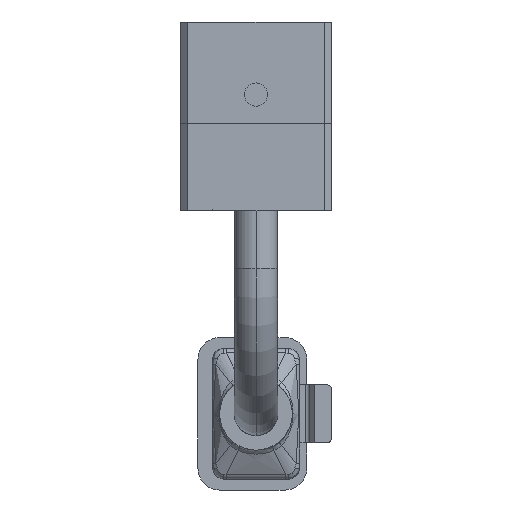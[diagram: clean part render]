
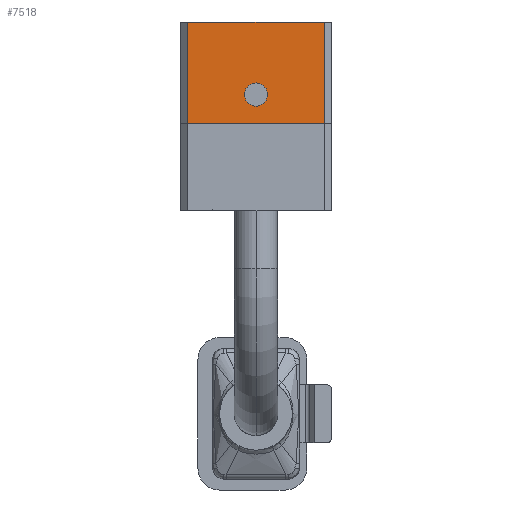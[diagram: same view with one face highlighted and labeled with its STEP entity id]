
A CAD part, left-side view. The second image highlights one B-rep face of the part: STEP entity #7518.
In plain terms, the highlighted planar face has unit normal (-1, 0, 0).
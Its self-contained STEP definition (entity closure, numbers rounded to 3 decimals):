
#36 = FACE_OUTER_BOUND ( 'NONE', #3335, .T. ) ;
#135 = CIRCLE ( 'NONE', #577, 0.8 ) ;
#144 = DIRECTION ( 'NONE',  ( 0., -1., 0. ) ) ;
#479 = CARTESIAN_POINT ( 'NONE',  ( -22., 4.7, 7. ) ) ;
#577 = AXIS2_PLACEMENT_3D ( 'NONE', #3830, #5287, #1794 ) ;
#1068 = CARTESIAN_POINT ( 'NONE',  ( -22., -4.7, 7. ) ) ;
#1152 = VERTEX_POINT ( 'NONE', #1068 ) ;
#1190 = CARTESIAN_POINT ( 'NONE',  ( -22., -4.7, 7. ) ) ;
#1387 = DIRECTION ( 'NONE',  ( 0., 0., 1. ) ) ;
#1390 = PLANE ( 'NONE',  #4498 ) ;
#1704 = CARTESIAN_POINT ( 'NONE',  ( -22., 4.7, 0. ) ) ;
#1794 = DIRECTION ( 'NONE',  ( 0., 0., 1. ) ) ;
#1805 = ORIENTED_EDGE ( 'NONE', *, *, #2409, .F. ) ;
#2409 = EDGE_CURVE ( 'NONE', #7118, #7540, #135, .T. ) ;
#2633 = DIRECTION ( 'NONE',  ( 0., 0., 1. ) ) ;
#2770 = CARTESIAN_POINT ( 'NONE',  ( -22., 5.2, 7. ) ) ;
#2795 = CARTESIAN_POINT ( 'NONE',  ( -22., -4.7, 0. ) ) ;
#2832 = DIRECTION ( 'NONE',  ( 0., 0., -1. ) ) ;
#3046 = EDGE_CURVE ( 'NONE', #6815, #6239, #3900, .T. ) ;
#3276 = EDGE_CURVE ( 'NONE', #7540, #7118, #5624, .T. ) ;
#3335 = EDGE_LOOP ( 'NONE', ( #8821, #7486, #8686, #7497 ) ) ;
#3367 = LINE ( 'NONE', #1190, #6839 ) ;
#3524 = CARTESIAN_POINT ( 'NONE',  ( -22., 0., 2.8 ) ) ;
#3781 = DIRECTION ( 'NONE',  ( 0., 0., -1. ) ) ;
#3830 = CARTESIAN_POINT ( 'NONE',  ( -22., 0., 2. ) ) ;
#3900 = LINE ( 'NONE', #6594, #4021 ) ;
#4021 = VECTOR ( 'NONE', #5219, 1000. ) ;
#4371 = LINE ( 'NONE', #7243, #8147 ) ;
#4498 = AXIS2_PLACEMENT_3D ( 'NONE', #6936, #5609, #2832 ) ;
#4600 = AXIS2_PLACEMENT_3D ( 'NONE', #8379, #8340, #1387 ) ;
#4706 = ORIENTED_EDGE ( 'NONE', *, *, #3276, .F. ) ;
#5219 = DIRECTION ( 'NONE',  ( 0., -1., 0. ) ) ;
#5287 = DIRECTION ( 'NONE',  ( -1., 0., 0. ) ) ;
#5569 = FACE_BOUND ( 'NONE', #5966, .T. ) ;
#5609 = DIRECTION ( 'NONE',  ( 1., 0., 0. ) ) ;
#5624 = CIRCLE ( 'NONE', #4600, 0.8 ) ;
#5653 = VERTEX_POINT ( 'NONE', #479 ) ;
#5730 = EDGE_CURVE ( 'NONE', #5653, #1152, #6362, .T. ) ;
#5793 = VECTOR ( 'NONE', #144, 1000. ) ;
#5966 = EDGE_LOOP ( 'NONE', ( #4706, #1805 ) ) ;
#6004 = CARTESIAN_POINT ( 'NONE',  ( -22., 0., 1.2 ) ) ;
#6239 = VERTEX_POINT ( 'NONE', #2795 ) ;
#6362 = LINE ( 'NONE', #2770, #5793 ) ;
#6594 = CARTESIAN_POINT ( 'NONE',  ( -22., 5.2, 0. ) ) ;
#6815 = VERTEX_POINT ( 'NONE', #1704 ) ;
#6839 = VECTOR ( 'NONE', #2633, 1000. ) ;
#6936 = CARTESIAN_POINT ( 'NONE',  ( -22., 5.2, 7. ) ) ;
#7078 = EDGE_CURVE ( 'NONE', #6239, #1152, #3367, .T. ) ;
#7118 = VERTEX_POINT ( 'NONE', #6004 ) ;
#7243 = CARTESIAN_POINT ( 'NONE',  ( -22., 4.7, 7. ) ) ;
#7486 = ORIENTED_EDGE ( 'NONE', *, *, #7753, .T. ) ;
#7497 = ORIENTED_EDGE ( 'NONE', *, *, #7078, .T. ) ;
#7518 = ADVANCED_FACE ( 'NONE', ( #5569, #36 ), #1390, .F. ) ;
#7540 = VERTEX_POINT ( 'NONE', #3524 ) ;
#7753 = EDGE_CURVE ( 'NONE', #5653, #6815, #4371, .T. ) ;
#8147 = VECTOR ( 'NONE', #3781, 1000. ) ;
#8340 = DIRECTION ( 'NONE',  ( -1., 0., 0. ) ) ;
#8379 = CARTESIAN_POINT ( 'NONE',  ( -22., 0., 2. ) ) ;
#8686 = ORIENTED_EDGE ( 'NONE', *, *, #3046, .T. ) ;
#8821 = ORIENTED_EDGE ( 'NONE', *, *, #5730, .F. ) ;
